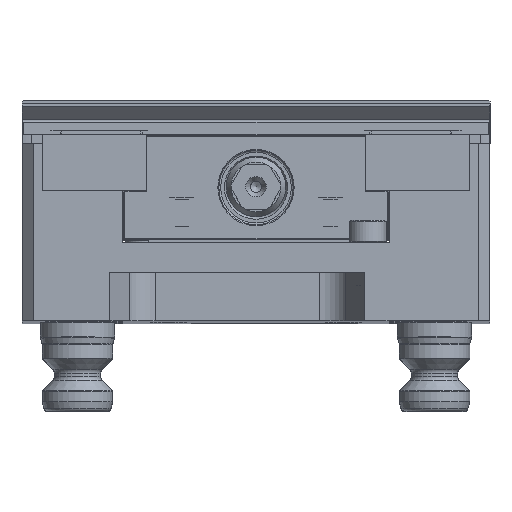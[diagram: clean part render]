
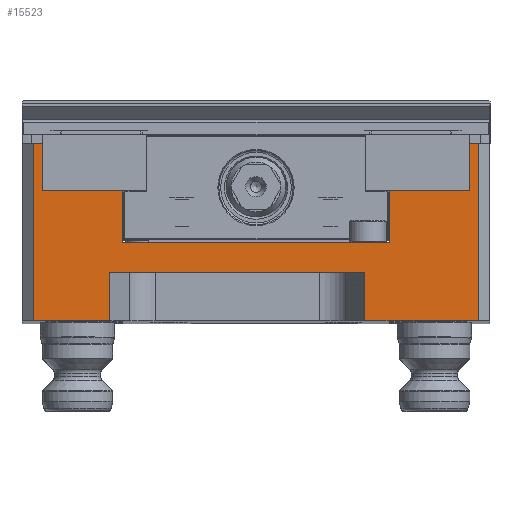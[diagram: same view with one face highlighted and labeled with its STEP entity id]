
A CAD part, top view. The second image highlights one B-rep face of the part: STEP entity #15523.
In plain terms, the highlighted planar face has unit normal (0, 0, 1).
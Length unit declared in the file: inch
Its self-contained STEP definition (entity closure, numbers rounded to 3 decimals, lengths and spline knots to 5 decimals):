
#446 = VECTOR ( 'NONE', #8456, 39.37008 ) ;
#537 = CARTESIAN_POINT ( 'NONE',  ( -1.41732, 1.37795, 9. ) ) ;
#673 = VECTOR ( 'NONE', #12140, 39.37008 ) ;
#748 = EDGE_CURVE ( 'NONE', #13496, #21843, #5254, .T. ) ;
#775 = EDGE_LOOP ( 'NONE', ( #8398, #8660, #7827, #20544, #9161, #18271, #10736, #11215, #17630, #15532, #8488, #14328, #1459, #13403, #20347, #17376 ) ) ;
#1459 = ORIENTED_EDGE ( 'NONE', *, *, #10228, .T. ) ;
#1477 = DIRECTION ( 'NONE',  ( -1., 0., 0. ) ) ;
#1527 = EDGE_CURVE ( 'NONE', #6792, #18224, #24730, .T. ) ;
#1708 = EDGE_CURVE ( 'NONE', #21843, #16634, #16166, .T. ) ;
#2507 = VECTOR ( 'NONE', #3311, 39.37008 ) ;
#2512 = EDGE_CURVE ( 'NONE', #25372, #16109, #14671, .T. ) ;
#2535 = CARTESIAN_POINT ( 'NONE',  ( -1.54623, 0.51181, 9. ) ) ;
#2574 = CARTESIAN_POINT ( 'NONE',  ( 2.26417, 1.37795, 9. ) ) ;
#2608 = DIRECTION ( 'NONE',  ( 0., -1., 0. ) ) ;
#3169 = CARTESIAN_POINT ( 'NONE',  ( 2.26417, 1.875, 9. ) ) ;
#3311 = DIRECTION ( 'NONE',  ( 0., -1., 0. ) ) ;
#4301 = CARTESIAN_POINT ( 'NONE',  ( -2.26417, 1.875, 9. ) ) ;
#4330 = LINE ( 'NONE', #5541, #673 ) ;
#4735 = EDGE_CURVE ( 'NONE', #9286, #16634, #22478, .T. ) ;
#4852 = CARTESIAN_POINT ( 'NONE',  ( 2.475, 0., 9. ) ) ;
#5254 = LINE ( 'NONE', #13199, #22890 ) ;
#5425 = CARTESIAN_POINT ( 'NONE',  ( 1.41732, 0.82677, 9. ) ) ;
#5489 = VECTOR ( 'NONE', #18272, 39.37008 ) ;
#5541 = CARTESIAN_POINT ( 'NONE',  ( 2.35689, 1.875, 9. ) ) ;
#5922 = LINE ( 'NONE', #23684, #15244 ) ;
#5938 = DIRECTION ( 'NONE',  ( 0., 0., 1. ) ) ;
#6244 = CARTESIAN_POINT ( 'NONE',  ( -2.475, 1.875, 9. ) ) ;
#6313 = EDGE_CURVE ( 'NONE', #16873, #9687, #24217, .T. ) ;
#6792 = VERTEX_POINT ( 'NONE', #15002 ) ;
#7088 = CARTESIAN_POINT ( 'NONE',  ( 2.475, 0., 9. ) ) ;
#7147 = LINE ( 'NONE', #24798, #8284 ) ;
#7505 = VECTOR ( 'NONE', #10642, 39.37008 ) ;
#7525 = CARTESIAN_POINT ( 'NONE',  ( -1.41732, 0.82677, 9. ) ) ;
#7532 = CARTESIAN_POINT ( 'NONE',  ( -2.35689, 0., 9. ) ) ;
#7820 = VECTOR ( 'NONE', #8291, 39.37008 ) ;
#7827 = ORIENTED_EDGE ( 'NONE', *, *, #24890, .T. ) ;
#8284 = VECTOR ( 'NONE', #20661, 39.37008 ) ;
#8291 = DIRECTION ( 'NONE',  ( -1., 0., 0. ) ) ;
#8398 = ORIENTED_EDGE ( 'NONE', *, *, #1708, .F. ) ;
#8456 = DIRECTION ( 'NONE',  ( 0., -1., 0. ) ) ;
#8488 = ORIENTED_EDGE ( 'NONE', *, *, #8607, .T. ) ;
#8565 = CARTESIAN_POINT ( 'NONE',  ( 2.35689, 1.875, 9. ) ) ;
#8607 = EDGE_CURVE ( 'NONE', #21761, #15320, #18298, .T. ) ;
#8660 = ORIENTED_EDGE ( 'NONE', *, *, #748, .F. ) ;
#8835 = EDGE_CURVE ( 'NONE', #9408, #21761, #7147, .T. ) ;
#9108 = EDGE_CURVE ( 'NONE', #15320, #12857, #24096, .T. ) ;
#9161 = ORIENTED_EDGE ( 'NONE', *, *, #13736, .T. ) ;
#9269 = CARTESIAN_POINT ( 'NONE',  ( -2.35689, 0., 9. ) ) ;
#9286 = VERTEX_POINT ( 'NONE', #9269 ) ;
#9408 = VERTEX_POINT ( 'NONE', #5425 ) ;
#9687 = VERTEX_POINT ( 'NONE', #17654 ) ;
#10209 = LINE ( 'NONE', #6244, #7820 ) ;
#10228 = EDGE_CURVE ( 'NONE', #12857, #16467, #5922, .T. ) ;
#10252 = CARTESIAN_POINT ( 'NONE',  ( 1.15253, 0.51181, 9. ) ) ;
#10542 = CARTESIAN_POINT ( 'NONE',  ( 2.26417, 1.37795, 9. ) ) ;
#10642 = DIRECTION ( 'NONE',  ( 0., -1., 0. ) ) ;
#10736 = ORIENTED_EDGE ( 'NONE', *, *, #19186, .T. ) ;
#11215 = ORIENTED_EDGE ( 'NONE', *, *, #6313, .T. ) ;
#11220 = CARTESIAN_POINT ( 'NONE',  ( -1.41732, 1.37795, 9. ) ) ;
#11387 = DIRECTION ( 'NONE',  ( 1., 0., 0. ) ) ;
#12140 = DIRECTION ( 'NONE',  ( 0., 1., 0. ) ) ;
#12857 = VERTEX_POINT ( 'NONE', #17664 ) ;
#12995 = CARTESIAN_POINT ( 'NONE',  ( 2.475, 1.875, 9. ) ) ;
#13142 = VECTOR ( 'NONE', #11387, 39.37008 ) ;
#13199 = CARTESIAN_POINT ( 'NONE',  ( -1.54623, 0.51181, 9. ) ) ;
#13403 = ORIENTED_EDGE ( 'NONE', *, *, #22773, .T. ) ;
#13496 = VERTEX_POINT ( 'NONE', #18790 ) ;
#13736 = EDGE_CURVE ( 'NONE', #18224, #25372, #4330, .T. ) ;
#13798 = VECTOR ( 'NONE', #2608, 39.37008 ) ;
#13870 = DIRECTION ( 'NONE',  ( 0., 1., 0. ) ) ;
#14328 = ORIENTED_EDGE ( 'NONE', *, *, #9108, .T. ) ;
#14671 = LINE ( 'NONE', #12995, #17995 ) ;
#14915 = DIRECTION ( 'NONE',  ( 1., 0., 0. ) ) ;
#14959 = EDGE_CURVE ( 'NONE', #25358, #9286, #21165, .T. ) ;
#15002 = CARTESIAN_POINT ( 'NONE',  ( 1.15253, 0., 9. ) ) ;
#15244 = VECTOR ( 'NONE', #13870, 39.37008 ) ;
#15320 = VERTEX_POINT ( 'NONE', #11220 ) ;
#15445 = CARTESIAN_POINT ( 'NONE',  ( -1.54623, 0., 9. ) ) ;
#15523 = ADVANCED_FACE ( 'NONE', ( #17641 ), #19579, .T. ) ;
#15532 = ORIENTED_EDGE ( 'NONE', *, *, #8835, .T. ) ;
#15697 = VECTOR ( 'NONE', #14915, 39.37008 ) ;
#16109 = VERTEX_POINT ( 'NONE', #3169 ) ;
#16166 = LINE ( 'NONE', #2535, #7505 ) ;
#16467 = VERTEX_POINT ( 'NONE', #4301 ) ;
#16510 = LINE ( 'NONE', #20377, #13798 ) ;
#16634 = VERTEX_POINT ( 'NONE', #15445 ) ;
#16873 = VERTEX_POINT ( 'NONE', #2574 ) ;
#17179 = VECTOR ( 'NONE', #21408, 39.37008 ) ;
#17376 = ORIENTED_EDGE ( 'NONE', *, *, #4735, .T. ) ;
#17630 = ORIENTED_EDGE ( 'NONE', *, *, #25023, .T. ) ;
#17641 = FACE_OUTER_BOUND ( 'NONE', #775, .T. ) ;
#17654 = CARTESIAN_POINT ( 'NONE',  ( 1.41732, 1.37795, 9. ) ) ;
#17664 = CARTESIAN_POINT ( 'NONE',  ( -2.26417, 1.37795, 9. ) ) ;
#17995 = VECTOR ( 'NONE', #25118, 39.37008 ) ;
#18224 = VERTEX_POINT ( 'NONE', #24582 ) ;
#18271 = ORIENTED_EDGE ( 'NONE', *, *, #2512, .T. ) ;
#18272 = DIRECTION ( 'NONE',  ( -1., 0., 0. ) ) ;
#18298 = LINE ( 'NONE', #537, #24791 ) ;
#18627 = LINE ( 'NONE', #10252, #446 ) ;
#18790 = CARTESIAN_POINT ( 'NONE',  ( 1.15253, 0.51181, 9. ) ) ;
#18874 = LINE ( 'NONE', #21181, #2507 ) ;
#19186 = EDGE_CURVE ( 'NONE', #16109, #16873, #16510, .T. ) ;
#19579 = PLANE ( 'NONE',  #22072 ) ;
#19707 = DIRECTION ( 'NONE',  ( 1., 0., 0. ) ) ;
#19874 = DIRECTION ( 'NONE',  ( 0., 1., 0. ) ) ;
#20274 = CARTESIAN_POINT ( 'NONE',  ( -2.35689, 1.875, 9. ) ) ;
#20347 = ORIENTED_EDGE ( 'NONE', *, *, #14959, .T. ) ;
#20377 = CARTESIAN_POINT ( 'NONE',  ( 2.26417, 1.875, 9. ) ) ;
#20458 = DIRECTION ( 'NONE',  ( -1., 0., 0. ) ) ;
#20506 = VECTOR ( 'NONE', #20458, 39.37008 ) ;
#20544 = ORIENTED_EDGE ( 'NONE', *, *, #1527, .T. ) ;
#20661 = DIRECTION ( 'NONE',  ( -1., 0., 0. ) ) ;
#21158 = CARTESIAN_POINT ( 'NONE',  ( -1.54623, 0.51181, 9. ) ) ;
#21165 = LINE ( 'NONE', #7532, #17179 ) ;
#21181 = CARTESIAN_POINT ( 'NONE',  ( 1.41732, 1.37795, 9. ) ) ;
#21408 = DIRECTION ( 'NONE',  ( 0., -1., 0. ) ) ;
#21761 = VERTEX_POINT ( 'NONE', #7525 ) ;
#21843 = VERTEX_POINT ( 'NONE', #21158 ) ;
#22072 = AXIS2_PLACEMENT_3D ( 'NONE', #23701, #5938, #19707 ) ;
#22143 = CARTESIAN_POINT ( 'NONE',  ( -2.26417, 1.37795, 9. ) ) ;
#22478 = LINE ( 'NONE', #4852, #13142 ) ;
#22773 = EDGE_CURVE ( 'NONE', #16467, #25358, #10209, .T. ) ;
#22890 = VECTOR ( 'NONE', #1477, 39.37008 ) ;
#23684 = CARTESIAN_POINT ( 'NONE',  ( -2.26417, 1.875, 9. ) ) ;
#23701 = CARTESIAN_POINT ( 'NONE',  ( 0., 0., 9. ) ) ;
#24096 = LINE ( 'NONE', #22143, #5489 ) ;
#24217 = LINE ( 'NONE', #10542, #20506 ) ;
#24582 = CARTESIAN_POINT ( 'NONE',  ( 2.35689, 0., 9. ) ) ;
#24730 = LINE ( 'NONE', #7088, #15697 ) ;
#24791 = VECTOR ( 'NONE', #19874, 39.37008 ) ;
#24798 = CARTESIAN_POINT ( 'NONE',  ( -1.41732, 0.82677, 9. ) ) ;
#24890 = EDGE_CURVE ( 'NONE', #13496, #6792, #18627, .T. ) ;
#25023 = EDGE_CURVE ( 'NONE', #9687, #9408, #18874, .T. ) ;
#25118 = DIRECTION ( 'NONE',  ( -1., 0., 0. ) ) ;
#25358 = VERTEX_POINT ( 'NONE', #20274 ) ;
#25372 = VERTEX_POINT ( 'NONE', #8565 ) ;
